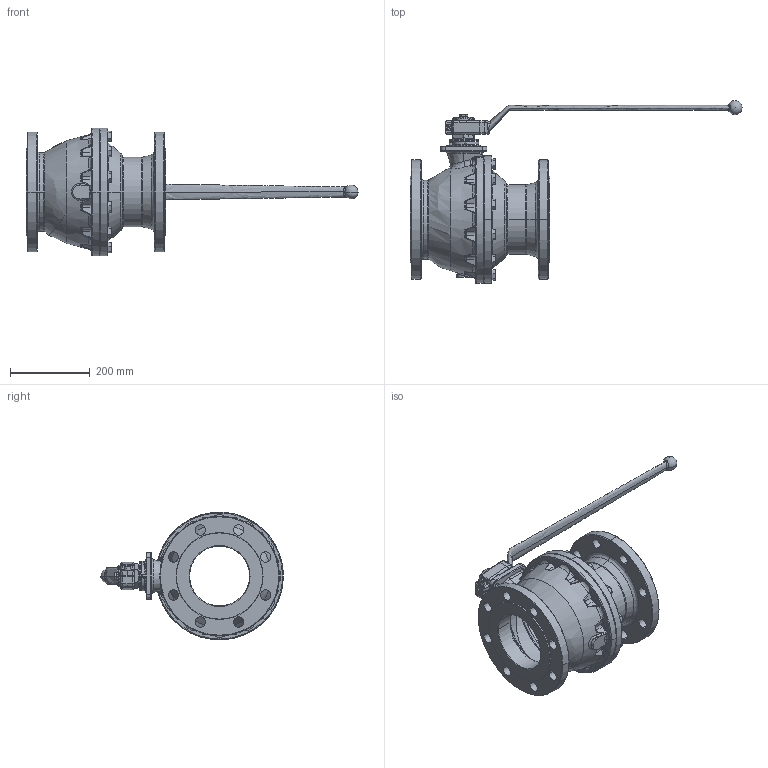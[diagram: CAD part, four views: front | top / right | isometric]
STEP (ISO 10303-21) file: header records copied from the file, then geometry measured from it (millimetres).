
FILE_DESCRIPTION (( 'STEP AP214' ), '1' );
FILE_NAME ('0540150 con maneta.STEP', '2016-10-08T18:37:46', ( '' ), ( '' ), 'SwSTEP 2.0', 'SolidWorks 2016', '' );
FILE_SCHEMA (( 'AUTOMOTIVE_DESIGN' ));
Length unit declared in the file: millimetre
Products named in the file (18): 0540150C; 0540150 con maneta; P150G (50x40x7)_Comprimida; 5183_17; DIN 933 - M16 x 40_DIN 933 - M16 x 40; DIN 6325 - Ø8x20; EPI150Q; 5283_46; DIN 912 - M10 x 30_DIN 912 M10 x 30; M150CHST; 200150_41; 00830920; JT150FV (50x40x2); 5183_07; DIN 933 - M12 x 20_DIN 933 - M12 x 20; 5183_10-1; 0540150L; 5183_08
Assembly tree (31 placements, depth 2):
  0540150 con maneta
    0540150C
    0540150L
    EPI150Q
    P150G (50x40x7)_Comprimida  x3
    5183_10-1
    JT150FV (50x40x2)
    00830920
    200150_41
    5183_08  x2
    5283_46
    5183_07
    DIN 6325 - Ø8x20
    M150CHST
    DIN 912 - M10 x 30_DIN 912 M10 x 30
    5183_17
    DIN 933 - M12 x 20_DIN 933 - M12 x 20
    DIN 933 - M16 x 40_DIN 933 - M16 x 40  x12
Bounding box: 832.5 x 458.18 x 320 mm (x, y, z)
Volume: 7691595.9 mm3; surface area: 1109483.6 mm2
Topology: 31 solids, 31 shells, 1315 faces, 3160 edges, 1865 vertices
Faces by surface type: cylinder 372, plane 362, bspline 314, cone 213, torus 44, sphere 10
Entity records: 71080 total; most frequent: CARTESIAN_POINT 49093, ORIENTED_EDGE 4762, DIRECTION 3848, EDGE_CURVE 2381, AXIS2_PLACEMENT_3D 1588, VERTEX_POINT 1464, EDGE_LOOP 1117, ADVANCED_FACE 976
